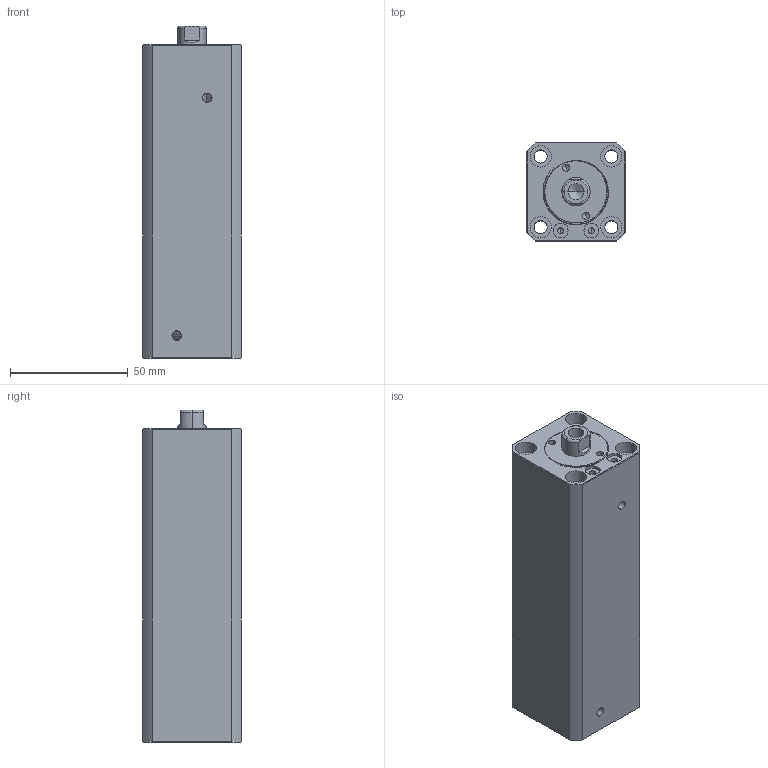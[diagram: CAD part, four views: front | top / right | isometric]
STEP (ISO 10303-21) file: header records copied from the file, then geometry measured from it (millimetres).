
FILE_DESCRIPTION (( 'STEP AP214' ), '1' );
FILE_NAME ('chtb-sdma20x90n_asm.STEP', '2018-05-18T06:55:34', ( '' ), ( '' ), 'SwSTEP 2.0', 'SolidWorks 2016', '' );
FILE_SCHEMA (( 'AUTOMOTIVE_DESIGN' ));
Length unit declared in the file: millimetre
Products named in the file (4): chtb-sdma20x90n_asm; QG_3; CHTB-SDMA20X90NHSG; CHTB-SDMA20X90NBT
Assembly tree (3 placements, depth 2):
  chtb-sdma20x90n_asm
    CHTB-SDMA20X90NBT
    CHTB-SDMA20X90NHSG
    QG_3
Bounding box: 42 x 42 x 141 mm (x, y, z)
Volume: 195508.8 mm3; surface area: 54948.5 mm2
Topology: 3 solids, 3 shells, 202 faces, 538 edges, 356 vertices
Faces by surface type: cylinder 107, plane 43, torus 25, bspline 21, cone 6
Entity records: 11592 total; most frequent: CARTESIAN_POINT 6673, ORIENTED_EDGE 1064, DIRECTION 926, EDGE_CURVE 532, AXIS2_PLACEMENT_3D 390, VERTEX_POINT 356, EDGE_LOOP 240, CIRCLE 203
